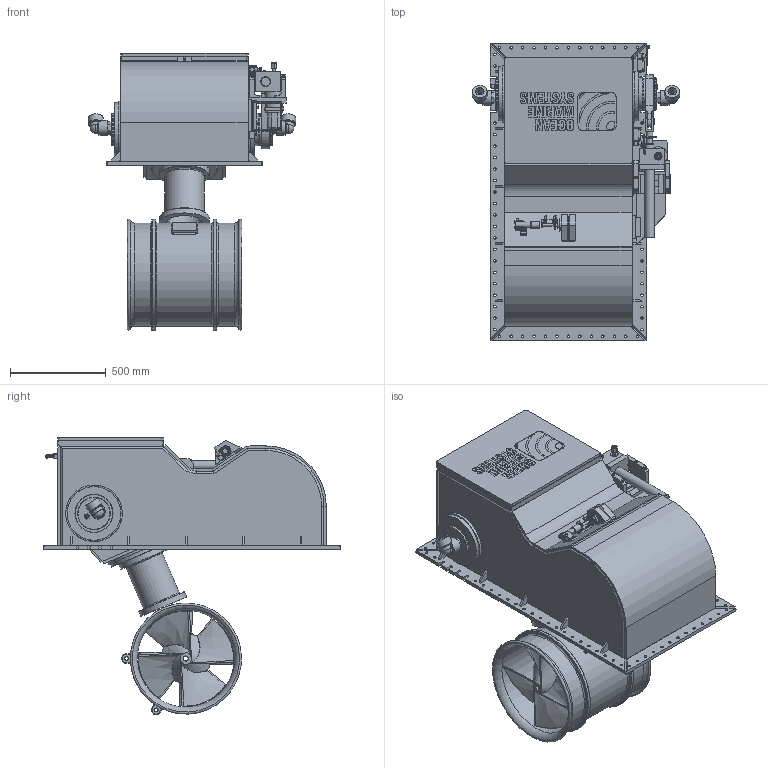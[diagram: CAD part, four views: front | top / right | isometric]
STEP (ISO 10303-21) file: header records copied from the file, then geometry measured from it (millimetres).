
FILE_DESCRIPTION(/* description */ (''),/* implementation_level */ '2;1');
FILE_NAME(/* name */ 'Q:\THRUSTERS\THRUSTER SALES & SUPPORT DOCS\THRUSTER Sales\H-S\H-0500-S\H-0500-S-DEPLOYED.stp',/* time_stamp */ '2021-01-26T14:17:13+00:00',/* author */ ('Barney.Webborn'),/* organization */ (''),/* preprocessor_version */ 'ST-DEVELOPER v17.2',/* originating_system */ 'Autodesk Inventor 2019',/* authorisation */ '');
FILE_SCHEMA (('AUTOMOTIVE_DESIGN { 1 0 10303 214 3 1 1 }'));
Length unit declared in the file: millimetre
Products named in the file (1): H-0500-S_Shrinkwrap_1
Bounding box: 1084 x 1557 x 1450.64 mm (x, y, z)
Volume: 111442434.8 mm3; surface area: 14894505.9 mm2
Topology: 9 solids, 9 shells, 2598 faces, 6913 edges, 4448 vertices
Faces by surface type: plane 1508, cylinder 590, cone 206, bspline 155, torus 113, sphere 26
Full cylindrical faces by diameter (mm): 2.5 x2, 3 x6, 3.36 x1, 7.2 x2, 8 x2, 8.5 x8, 10 x2, 12 x1, 12.4 x4, 13 x68, 15 x4, 15.6 x1, 16 x11, 17 x4, 17.29 x1, 17.5 x2, 18.25 x2, 18.376 x2, 18.75 x2, 19 x2, 20 x7, 22.857 x1, 25 x4, 26.25 x1, 26.667 x1, 27 x1, 28 x1, 30 x3, 31.75 x4, 32 x2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
Entity records: 88488 total; most frequent: CARTESIAN_POINT 20954, ORIENTED_EDGE 13710, DIRECTION 13072, EDGE_CURVE 6855, VERTEX_POINT 4448, AXIS2_PLACEMENT_3D 4443, LINE 4186, VECTOR 4186
